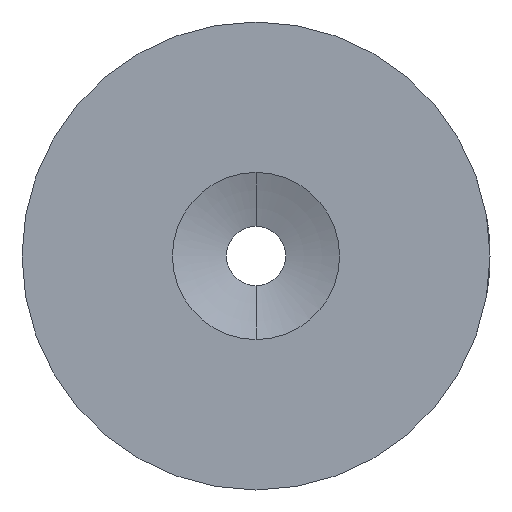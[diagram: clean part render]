
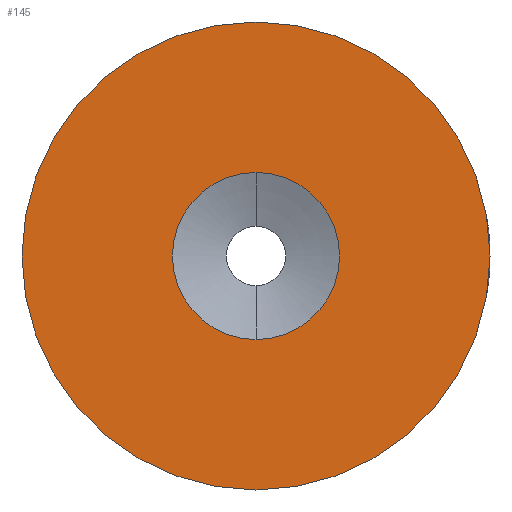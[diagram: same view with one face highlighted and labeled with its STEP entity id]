
A CAD part, left-side view. The second image highlights one B-rep face of the part: STEP entity #145.
In plain terms, the highlighted planar face has unit normal (-1, 0, 0).
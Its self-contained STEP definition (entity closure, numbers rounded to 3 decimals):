
#3 = AXIS2_PLACEMENT_3D ( 'NONE', #22, #126, #537 ) ;
#22 = CARTESIAN_POINT ( 'NONE',  ( 0., 0., 0. ) ) ;
#30 = CARTESIAN_POINT ( 'NONE',  ( 0., 0., 5. ) ) ;
#84 = DIRECTION ( 'NONE',  ( -1., 0., 0. ) ) ;
#85 = CARTESIAN_POINT ( 'NONE',  ( 0., 0., 0. ) ) ;
#88 = FACE_OUTER_BOUND ( 'NONE', #518, .T. ) ;
#93 = ORIENTED_EDGE ( 'NONE', *, *, #233, .F. ) ;
#105 = VERTEX_POINT ( 'NONE', #421 ) ;
#126 = DIRECTION ( 'NONE',  ( -1., 0., 0. ) ) ;
#142 = EDGE_CURVE ( 'NONE', #105, #444, #521, .T. ) ;
#145 = ADVANCED_FACE ( 'NONE', ( #413, #88 ), #545, .F. ) ;
#146 = EDGE_CURVE ( 'NONE', #285, #166, #281, .T. ) ;
#166 = VERTEX_POINT ( 'NONE', #30 ) ;
#168 = DIRECTION ( 'NONE',  ( 0., 0., 1. ) ) ;
#233 = EDGE_CURVE ( 'NONE', #166, #285, #274, .T. ) ;
#237 = AXIS2_PLACEMENT_3D ( 'NONE', #85, #84, #168 ) ;
#238 = CARTESIAN_POINT ( 'NONE',  ( 0., 0., 0. ) ) ;
#259 = EDGE_CURVE ( 'NONE', #444, #105, #262, .T. ) ;
#262 = CIRCLE ( 'NONE', #390, 14. ) ;
#267 = DIRECTION ( 'NONE',  ( 0., 0., 1. ) ) ;
#274 = CIRCLE ( 'NONE', #3, 5. ) ;
#281 = CIRCLE ( 'NONE', #291, 5. ) ;
#285 = VERTEX_POINT ( 'NONE', #375 ) ;
#291 = AXIS2_PLACEMENT_3D ( 'NONE', #503, #468, #334 ) ;
#321 = AXIS2_PLACEMENT_3D ( 'NONE', #435, #326, #372 ) ;
#326 = DIRECTION ( 'NONE',  ( 1., 0., 0. ) ) ;
#334 = DIRECTION ( 'NONE',  ( 0., 0., 1. ) ) ;
#361 = DIRECTION ( 'NONE',  ( -1., 0., 0. ) ) ;
#362 = ORIENTED_EDGE ( 'NONE', *, *, #146, .F. ) ;
#372 = DIRECTION ( 'NONE',  ( 0., 0., -1. ) ) ;
#375 = CARTESIAN_POINT ( 'NONE',  ( 0., 0., -5. ) ) ;
#390 = AXIS2_PLACEMENT_3D ( 'NONE', #238, #361, #267 ) ;
#411 = ORIENTED_EDGE ( 'NONE', *, *, #142, .T. ) ;
#413 = FACE_BOUND ( 'NONE', #481, .T. ) ;
#421 = CARTESIAN_POINT ( 'NONE',  ( 0., 0., -14. ) ) ;
#435 = CARTESIAN_POINT ( 'NONE',  ( 0., 1.75, 0. ) ) ;
#444 = VERTEX_POINT ( 'NONE', #529 ) ;
#468 = DIRECTION ( 'NONE',  ( -1., 0., 0. ) ) ;
#481 = EDGE_LOOP ( 'NONE', ( #93, #362 ) ) ;
#503 = CARTESIAN_POINT ( 'NONE',  ( 0., 0., 0. ) ) ;
#518 = EDGE_LOOP ( 'NONE', ( #528, #411 ) ) ;
#521 = CIRCLE ( 'NONE', #237, 14. ) ;
#528 = ORIENTED_EDGE ( 'NONE', *, *, #259, .T. ) ;
#529 = CARTESIAN_POINT ( 'NONE',  ( 0., 0., 14. ) ) ;
#537 = DIRECTION ( 'NONE',  ( 0., 0., 1. ) ) ;
#545 = PLANE ( 'NONE',  #321 ) ;
